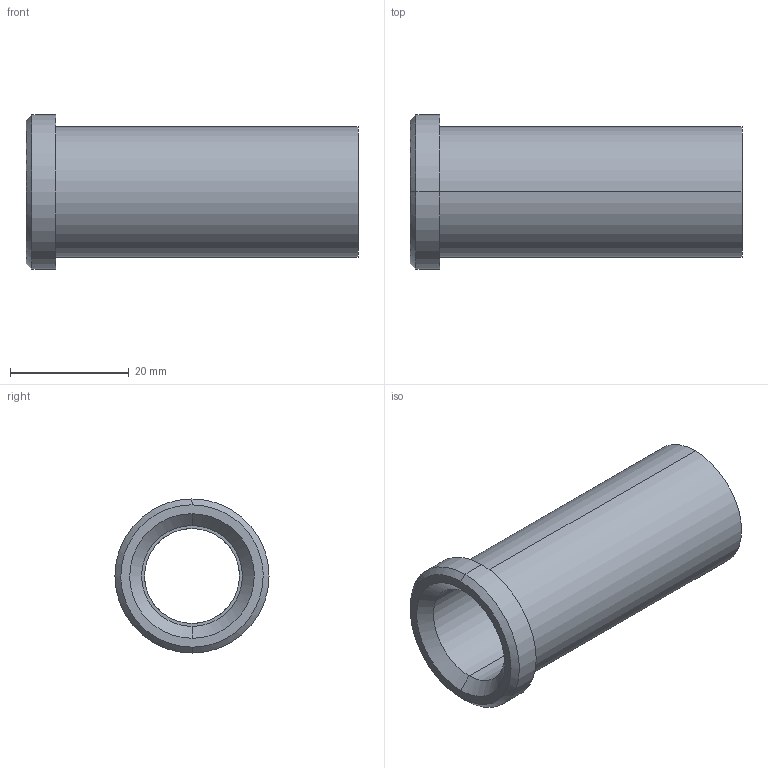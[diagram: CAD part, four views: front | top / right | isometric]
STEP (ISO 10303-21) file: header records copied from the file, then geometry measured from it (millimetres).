
FILE_DESCRIPTION(('CATIA V5 STEP Exchange'),'2;1');
FILE_NAME('C:\Users\Utente\Desktop\IO LAVORO\3D X SITO CF\X SITO\PLASTICA\353\353-16X56.stp','2021-05-04T18:17:07+00:00',('none'),('none'),'CATIA Version 5 Release 20 GA (IN-10)','CATIA V5 STEP AP203','none');
FILE_SCHEMA(('CONFIG_CONTROL_DESIGN'));
Length unit declared in the file: millimetre
Products named in the file (1): 353-16X56
Bounding box: 56 x 26 x 26 mm (x, y, z)
Volume: 9993.8 mm3; surface area: 7355.6 mm2
Topology: 1 solids, 1 shells, 18 faces, 58 edges, 44 vertices
Faces by surface type: cylinder 8, plane 4, cone 4, torus 2
Entity records: 840 total; most frequent: CARTESIAN_POINT 289, ORIENTED_EDGE 116, DIRECTION 82, EDGE_CURVE 58, AXIS2_PLACEMENT_3D 53, VERTEX_POINT 44, CIRCLE 34, EDGE_LOOP 22
